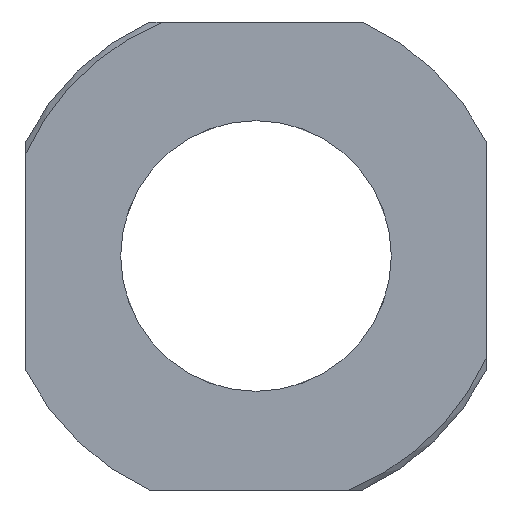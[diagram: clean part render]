
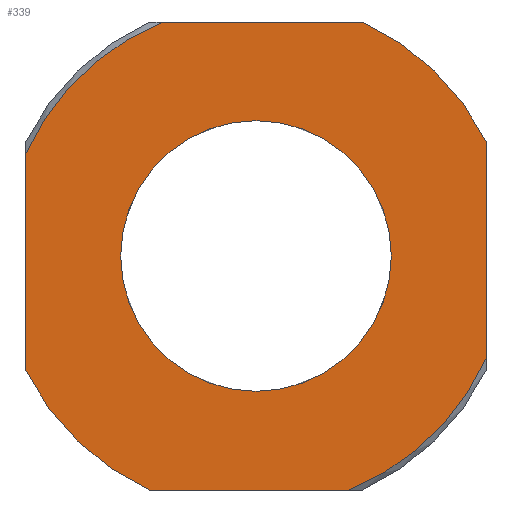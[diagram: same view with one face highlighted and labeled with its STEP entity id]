
A CAD part, front view. The second image highlights one B-rep face of the part: STEP entity #339.
In plain terms, the highlighted planar face has unit normal (0, -1, 0).
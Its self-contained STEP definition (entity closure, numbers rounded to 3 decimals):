
#7 = ORIENTED_EDGE ( 'NONE', *, *, #245, .T. ) ;
#14 = AXIS2_PLACEMENT_3D ( 'NONE', #927, #80, #231 ) ;
#16 = CARTESIAN_POINT ( 'NONE',  ( -8.5, -3.75, -4.243 ) ) ;
#17 = EDGE_LOOP ( 'NONE', ( #796, #131, #253, #434, #68, #7, #901, #624 ) ) ;
#27 = CARTESIAN_POINT ( 'NONE',  ( 0., -3.75, 0. ) ) ;
#39 = DIRECTION ( 'NONE',  ( 0., 1., 0. ) ) ;
#66 = EDGE_LOOP ( 'NONE', ( #240, #220 ) ) ;
#67 = AXIS2_PLACEMENT_3D ( 'NONE', #188, #193, #962 ) ;
#68 = ORIENTED_EDGE ( 'NONE', *, *, #208, .F. ) ;
#69 = CARTESIAN_POINT ( 'NONE',  ( 8.5, -3.75, 4.243 ) ) ;
#74 = VECTOR ( 'NONE', #271, 1000. ) ;
#80 = DIRECTION ( 'NONE',  ( 0., 1., 0. ) ) ;
#93 = VERTEX_POINT ( 'NONE', #707 ) ;
#108 = VERTEX_POINT ( 'NONE', #780 ) ;
#119 = CARTESIAN_POINT ( 'NONE',  ( 0., -3.75, 0. ) ) ;
#123 = DIRECTION ( 'NONE',  ( 0., 0., 1. ) ) ;
#131 = ORIENTED_EDGE ( 'NONE', *, *, #793, .T. ) ;
#153 = EDGE_CURVE ( 'NONE', #279, #93, #799, .T. ) ;
#185 = VERTEX_POINT ( 'NONE', #595 ) ;
#188 = CARTESIAN_POINT ( 'NONE',  ( 0., -3.75, 0. ) ) ;
#191 = LINE ( 'NONE', #727, #74 ) ;
#193 = DIRECTION ( 'NONE',  ( 0., -1., 0. ) ) ;
#198 = CARTESIAN_POINT ( 'NONE',  ( -8.5, -3.75, 0. ) ) ;
#200 = CARTESIAN_POINT ( 'NONE',  ( 3.422, -3.75, -8.648 ) ) ;
#201 = VERTEX_POINT ( 'NONE', #200 ) ;
#208 = EDGE_CURVE ( 'NONE', #261, #924, #338, .T. ) ;
#220 = ORIENTED_EDGE ( 'NONE', *, *, #765, .T. ) ;
#227 = CIRCLE ( 'NONE', #67, 9.3 ) ;
#231 = DIRECTION ( 'NONE',  ( 0., 0., 1. ) ) ;
#240 = ORIENTED_EDGE ( 'NONE', *, *, #153, .T. ) ;
#245 = EDGE_CURVE ( 'NONE', #261, #108, #227, .T. ) ;
#253 = ORIENTED_EDGE ( 'NONE', *, *, #588, .F. ) ;
#261 = VERTEX_POINT ( 'NONE', #491 ) ;
#266 = DIRECTION ( 'NONE',  ( 0., 1., 0. ) ) ;
#268 = EDGE_CURVE ( 'NONE', #790, #850, #629, .T. ) ;
#271 = DIRECTION ( 'NONE',  ( -1., 0., 0. ) ) ;
#279 = VERTEX_POINT ( 'NONE', #898 ) ;
#288 = DIRECTION ( 'NONE',  ( 0., 0., 1. ) ) ;
#300 = CARTESIAN_POINT ( 'NONE',  ( 3.933, -3.75, 8.648 ) ) ;
#307 = AXIS2_PLACEMENT_3D ( 'NONE', #655, #801, #288 ) ;
#317 = AXIS2_PLACEMENT_3D ( 'NONE', #647, #951, #862 ) ;
#333 = VECTOR ( 'NONE', #591, 1000. ) ;
#338 = LINE ( 'NONE', #820, #333 ) ;
#339 = ADVANCED_FACE ( 'NONE', ( #980, #442 ), #365, .F. ) ;
#356 = DIRECTION ( 'NONE',  ( 0., 0., 1. ) ) ;
#365 = PLANE ( 'NONE',  #14 ) ;
#376 = VECTOR ( 'NONE', #356, 1000. ) ;
#434 = ORIENTED_EDGE ( 'NONE', *, *, #546, .F. ) ;
#442 = FACE_OUTER_BOUND ( 'NONE', #17, .T. ) ;
#444 = AXIS2_PLACEMENT_3D ( 'NONE', #119, #266, #672 ) ;
#490 = CARTESIAN_POINT ( 'NONE',  ( 0., -3.75, 0. ) ) ;
#491 = CARTESIAN_POINT ( 'NONE',  ( -3.422, -3.75, 8.648 ) ) ;
#504 = LINE ( 'NONE', #814, #876 ) ;
#546 = EDGE_CURVE ( 'NONE', #924, #663, #716, .T. ) ;
#582 = EDGE_CURVE ( 'NONE', #850, #108, #590, .T. ) ;
#588 = EDGE_CURVE ( 'NONE', #663, #185, #504, .T. ) ;
#590 = LINE ( 'NONE', #198, #376 ) ;
#591 = DIRECTION ( 'NONE',  ( 1., 0., 0. ) ) ;
#595 = CARTESIAN_POINT ( 'NONE',  ( 8.5, -3.75, -3.774 ) ) ;
#622 = CIRCLE ( 'NONE', #957, 5. ) ;
#624 = ORIENTED_EDGE ( 'NONE', *, *, #268, .F. ) ;
#629 = CIRCLE ( 'NONE', #444, 9.5 ) ;
#645 = DIRECTION ( 'NONE',  ( 0., 1., 0. ) ) ;
#647 = CARTESIAN_POINT ( 'NONE',  ( 0., -3.75, 0. ) ) ;
#651 = AXIS2_PLACEMENT_3D ( 'NONE', #27, #645, #123 ) ;
#655 = CARTESIAN_POINT ( 'NONE',  ( 0., -3.75, 0. ) ) ;
#663 = VERTEX_POINT ( 'NONE', #69 ) ;
#672 = DIRECTION ( 'NONE',  ( 0., 0., 1. ) ) ;
#685 = DIRECTION ( 'NONE',  ( 0., 0., 1. ) ) ;
#707 = CARTESIAN_POINT ( 'NONE',  ( 0., -3.75, -5. ) ) ;
#716 = CIRCLE ( 'NONE', #651, 9.5 ) ;
#727 = CARTESIAN_POINT ( 'NONE',  ( 0., -3.75, -8.648 ) ) ;
#729 = CIRCLE ( 'NONE', #307, 9.3 ) ;
#739 = DIRECTION ( 'NONE',  ( 0., 0., -1. ) ) ;
#741 = EDGE_CURVE ( 'NONE', #201, #790, #191, .T. ) ;
#765 = EDGE_CURVE ( 'NONE', #93, #279, #622, .T. ) ;
#780 = CARTESIAN_POINT ( 'NONE',  ( -8.5, -3.75, 3.774 ) ) ;
#790 = VERTEX_POINT ( 'NONE', #807 ) ;
#793 = EDGE_CURVE ( 'NONE', #201, #185, #729, .T. ) ;
#796 = ORIENTED_EDGE ( 'NONE', *, *, #741, .F. ) ;
#799 = CIRCLE ( 'NONE', #317, 5. ) ;
#801 = DIRECTION ( 'NONE',  ( 0., -1., 0. ) ) ;
#807 = CARTESIAN_POINT ( 'NONE',  ( -3.933, -3.75, -8.648 ) ) ;
#814 = CARTESIAN_POINT ( 'NONE',  ( 8.5, -3.75, 0. ) ) ;
#820 = CARTESIAN_POINT ( 'NONE',  ( 0., -3.75, 8.648 ) ) ;
#850 = VERTEX_POINT ( 'NONE', #16 ) ;
#862 = DIRECTION ( 'NONE',  ( 0., 0., 1. ) ) ;
#876 = VECTOR ( 'NONE', #739, 1000. ) ;
#898 = CARTESIAN_POINT ( 'NONE',  ( 0., -3.75, 5. ) ) ;
#901 = ORIENTED_EDGE ( 'NONE', *, *, #582, .F. ) ;
#924 = VERTEX_POINT ( 'NONE', #300 ) ;
#927 = CARTESIAN_POINT ( 'NONE',  ( 0., -3.75, 0. ) ) ;
#951 = DIRECTION ( 'NONE',  ( 0., 1., 0. ) ) ;
#957 = AXIS2_PLACEMENT_3D ( 'NONE', #490, #39, #685 ) ;
#962 = DIRECTION ( 'NONE',  ( 0., 0., 1. ) ) ;
#980 = FACE_BOUND ( 'NONE', #66, .T. ) ;
